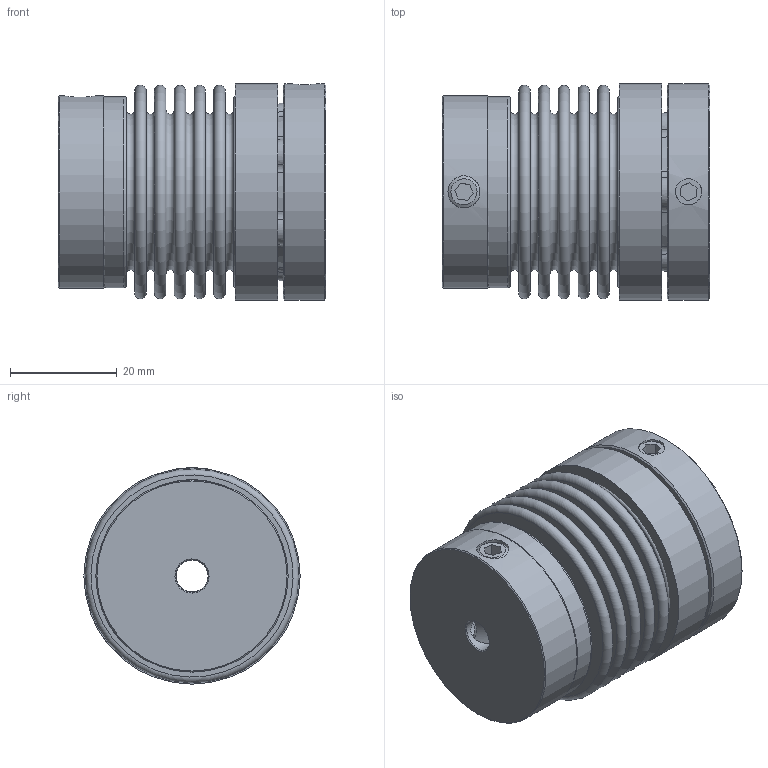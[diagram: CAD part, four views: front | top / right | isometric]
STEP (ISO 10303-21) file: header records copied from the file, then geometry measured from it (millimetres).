
FILE_DESCRIPTION( ( 'KBE1/14 - N7H8 - N14H7 - 98 Sh' ), '1' );
FILE_NAME( 'K:/Konstruktion/Fertigungszeichnungen/Metallbalgkupplung/KB1P/100/KB1P-100-50.stp', '14.12.2015', ( 'KBK-Antriebstechnik' ), ( 'KBK-Antriebstechnik' ), 'PSStep 16.0.42', 'Solid Edge St6', ' ' );
FILE_SCHEMA( ( 'AUTOMOTIVE_DESIGN { 1 0 10303 214 1 1 1 1 }' ) );
Length unit declared in the file: millimetre
Products named in the file (6): Assem1; Stecknabe KB1P-100; Socket Set Screw Cup Point_DIN_DIN 916 - M6 x 10-N_3; Balgaufnahme KB2P-100 für Step; MN100_Standard_1; BK100_Standard_1
Assembly tree (8 placements, depth 2):
  Assem1
    Stecknabe KB1P-100
    Socket Set Screw Cup Point_DIN_DIN 916 - M6 x 10-N_3  x4
    Balgaufnahme KB2P-100 für Step
    MN100_Standard_1
    BK100_Standard_1
Bounding box: 50.15 x 40.5 x 40.5 mm (x, y, z)
Volume: 35027.7 mm3; surface area: 30504.1 mm2
Topology: 8 solids, 8 shells, 177 faces, 401 edges, 261 vertices
Faces by surface type: plane 66, cone 66, torus 26, cylinder 19
Full cylindrical faces by diameter (mm): 4.917 x2, 6 x8, 35.2 x3, 35.8 x2, 36 x1, 40.5 x2
Entity records: 5351 total; most frequent: CARTESIAN_POINT 992, DIRECTION 729, ORIENTED_EDGE 508, AXIS2_PLACEMENT_3D 331, EDGE_CURVE 254, EDGE_LOOP 231, VERTEX_POINT 208, FACE_OUTER_BOUND 182
